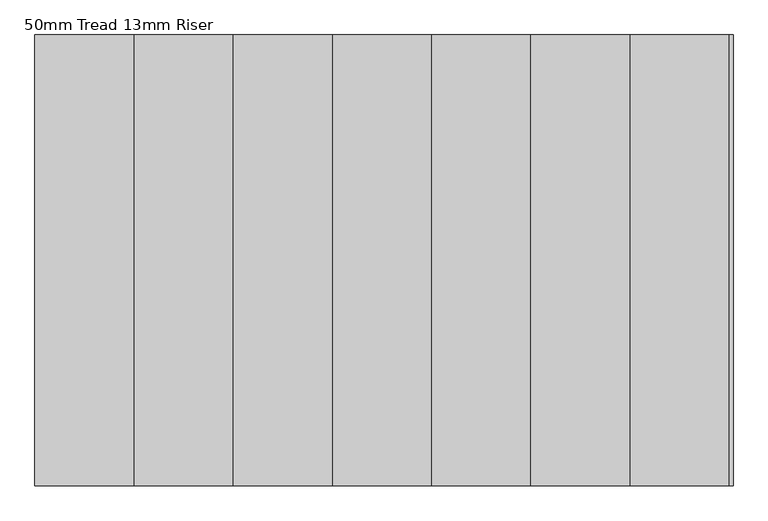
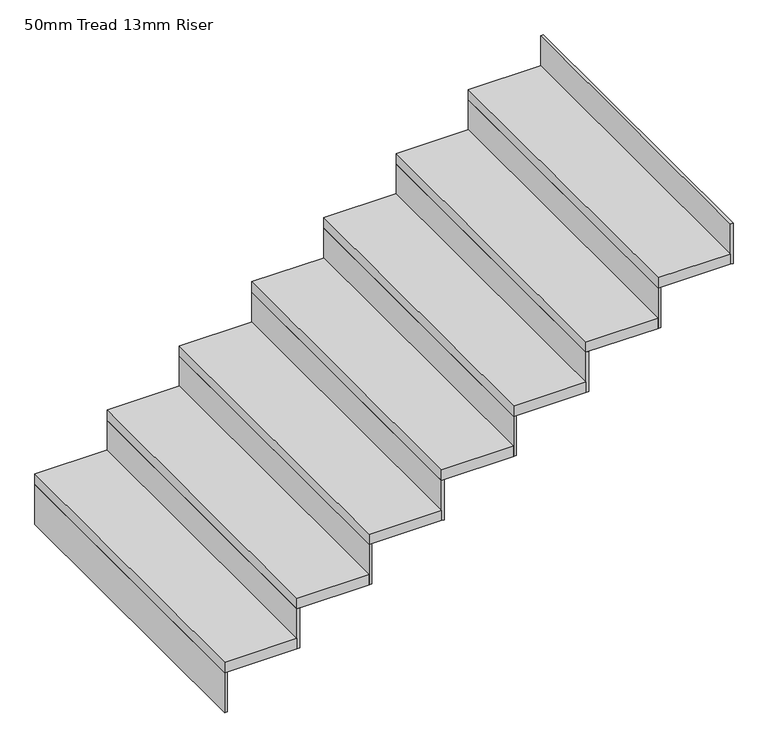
"""IFC4 building model written with IfcOpenShell, lengths in millimetres: stair flight geometry, 50mm Tread 13mm Riser."""

import ifcopenshell
import ifcopenshell.guid

model = None  # the IFC model being written
_history = None  # IfcOwnerHistory: only IFC2X3 demands one
_inside = {}  # id of a spatial element -> (the spatial element, [elements in it])
_under = {}  # id of a project, library or spatial element -> (it, [spatial elements below it])
_declared = {}  # id of a project -> (the project, [libraries it declares])
_typed = {}  # id of a type object -> (the type object, [elements of that type])
_made_of = {}  # id of a material, layer set ... -> (it, [elements and type objects made of it])


def new_model(schema):
    """Start an empty IFC model of exactly this schema.

    Asked for "IFC4X3", IfcOpenShell would pick the latest addendum, in which some entities
    have other attributes; the version numbers below select the first issue.
    IFC2X3 requires an IfcOwnerHistory on every rooted entity: one is made here for all.
    """
    global model, _history
    if schema == "IFC4X3":
        model = ifcopenshell.file(schema_version=(4, 3, 0, 0))
    else:
        model = ifcopenshell.file(schema=schema)
    _inside.clear()
    _under.clear()
    _declared.clear()
    _typed.clear()
    _made_of.clear()
    _history = None
    if model.schema == "IFC2X3":
        org = make("IfcOrganization", Name="unknown")
        user = make(
            "IfcPersonAndOrganization",
            ThePerson=make("IfcPerson", FamilyName="unknown"),
            TheOrganization=org,
        )
        app = make(
            "IfcApplication",
            ApplicationDeveloper=org,
            Version="unknown",
            ApplicationFullName="unknown",
            ApplicationIdentifier="unknown",
        )
        _history = make(
            "IfcOwnerHistory",
            OwningUser=user,
            OwningApplication=app,
            ChangeAction="ADDED",
            CreationDate=0,
        )
    return model


def make(cls, **values):
    """One entity of the class cls with the attributes given. An attribute that is None is left unset."""
    return model.create_entity(
        cls, **{name: value for name, value in values.items() if value is not None}
    )


def rooted(cls, **values):
    """An entity with a GlobalId (a new one), such as an element, a storey or a relation."""
    return make(cls, GlobalId=ifcopenshell.guid.new(), OwnerHistory=_history, **values)


def si_unit(unit_type, name, prefix=None):
    """IfcSIUnit, for example si_unit("LENGTHUNIT", "METRE", prefix="MILLI")."""
    return make("IfcSIUnit", UnitType=unit_type, Prefix=prefix, Name=name)


def assignment(units):
    """IfcUnitAssignment: the units of a project."""
    return None if units is None else make("IfcUnitAssignment", Units=units)


def point(xyz):
    """IfcCartesianPoint."""
    return None if xyz is None else make("IfcCartesianPoint", Coordinates=xyz)


def direction(xyz):
    """IfcDirection."""
    return None if xyz is None else make("IfcDirection", DirectionRatios=xyz)


def frame(location, z_axis=None, x_axis=None):
    """IfcAxis2Placement3D, a coordinate frame: its origin and axes. An axis left out is left unset."""
    return make(
        "IfcAxis2Placement3D",
        Location=point(location),
        Axis=direction(z_axis),
        RefDirection=direction(x_axis),
    )


def origin():
    """The frame at (0, 0, 0) with its axes left unset."""
    return frame((0.0, 0.0, 0.0))


def place(relative_to, where):
    """IfcLocalPlacement: puts the frame where relative to a parent placement (None: the world)."""
    return make(
        "IfcLocalPlacement", PlacementRelTo=relative_to, RelativePlacement=where
    )


def context(
    kind, dimensions, precision=None, world=None, true_north=None, identifier=None
):
    """IfcGeometricRepresentationContext, for example the 3D "Model" context."""
    return make(
        "IfcGeometricRepresentationContext",
        ContextIdentifier=identifier,
        ContextType=kind,
        CoordinateSpaceDimension=dimensions,
        Precision=precision,
        WorldCoordinateSystem=world,
        TrueNorth=true_north,
    )


def project(units=None, contexts=None):
    """IfcProject with its units and contexts."""
    return rooted(
        "IfcProject",
        Name="project",
        RepresentationContexts=contexts,
        UnitsInContext=assignment(units),
    )


def spatial(cls, under=None, at=None, **own):
    """A site, building, storey or space (cls), placed at a placement, below another one or the project."""
    s = rooted(cls, ObjectPlacement=at, **own)
    if under is not None:
        _under.setdefault(under.id(), (under, []))[1].append(s)
    return s


def polyline(points):
    """IfcPolyline through the points."""
    return make("IfcPolyline", Points=[point(p) for p in points])


def outline(outer, holes=None, kind="AREA"):
    """IfcArbitraryClosedProfileDef: a profile drawn as a closed curve; with holes, ...WithVoids."""
    if holes is None:
        return make("IfcArbitraryClosedProfileDef", ProfileType=kind, OuterCurve=outer)
    return make(
        "IfcArbitraryProfileDefWithVoids",
        ProfileType=kind,
        OuterCurve=outer,
        InnerCurves=holes,
    )


def extrude(swept, where, along, depth):
    """IfcExtrudedAreaSolid: the profile swept, set in the frame where, extruded along a direction by depth."""
    return make(
        "IfcExtrudedAreaSolid",
        SweptArea=swept,
        Position=where,
        ExtrudedDirection=direction(along),
        Depth=depth,
    )


def shape(context_of_items, identifier, shape_type, items):
    """IfcShapeRepresentation: the items that make up one representation, for example the "Body"."""
    return make(
        "IfcShapeRepresentation",
        ContextOfItems=context_of_items,
        RepresentationIdentifier=identifier,
        RepresentationType=shape_type,
        Items=items,
    )


def source(mapping_origin, context_of_items, identifier, shape_type, items):
    """IfcRepresentationMap: a shape defined once, which mapped items show again and again."""
    return make(
        "IfcRepresentationMap",
        MappingOrigin=mapping_origin,
        MappedRepresentation=shape(context_of_items, identifier, shape_type, items),
    )


def transform(
    local_origin,
    x_axis=None,
    y_axis=None,
    z_axis=None,
    scale=None,
    scale2=None,
    scale3=None,
    uniform=True,
):
    """IfcCartesianTransformationOperator3D, or its non-uniform kind. x_axis, y_axis, z_axis: its Axis1, 2, 3."""
    if uniform:
        return make(
            "IfcCartesianTransformationOperator3D",
            Axis1=direction(x_axis),
            Axis2=direction(y_axis),
            LocalOrigin=point(local_origin),
            Scale=scale,
            Axis3=direction(z_axis),
        )
    return make(
        "IfcCartesianTransformationOperator3DnonUniform",
        Axis1=direction(x_axis),
        Axis2=direction(y_axis),
        LocalOrigin=point(local_origin),
        Scale=scale,
        Axis3=direction(z_axis),
        Scale2=scale2,
        Scale3=scale3,
    )


def mapped(mapping_source, mapping_target):
    """IfcMappedItem: shows the shape of a source again, moved by a transform."""
    return make(
        "IfcMappedItem", MappingSource=mapping_source, MappingTarget=mapping_target
    )


def made_of(thing, what):
    """Note that an element or type object is made of a material, layer set ...; save() writes the relation."""
    if what is not None:
        _made_of.setdefault(what.id(), (what, []))[1].append(thing)
    return thing


def element(
    cls,
    number,
    at=None,
    inside=None,
    cuts=None,
    type_object=None,
    material=None,
    context=None,
    identifier="Body",
    shape_type=None,
    held_by="IfcProductDefinitionShape",
    body=None,
    shapes=None,
    **own,
):
    """One element of the class cls, such as IfcWall. Its Tag is "e" and its number.

    at: its placement. inside: the storey or other place that contains it. cuts: it is an
    opening in that element (IfcRelVoidsElement). A single representation is given by context,
    identifier, shape_type and body (its items); several are given by shapes. held_by: the class
    of the entity that holds the representations. save() writes the other relations.
    """
    e = rooted(cls, Tag="e%d" % number, ObjectPlacement=at, **own)
    if body is not None:
        shapes = [shape(context, identifier, shape_type, body)]
    if shapes is not None:
        e.Representation = make(held_by, Representations=shapes)
    if inside is not None:
        _inside.setdefault(inside.id(), (inside, []))[1].append(e)
    if cuts is not None:
        rooted(
            "IfcRelVoidsElement", RelatingBuildingElement=cuts, RelatedOpeningElement=e
        )
    if type_object is not None:
        _typed.setdefault(type_object.id(), (type_object, []))[1].append(e)
    return made_of(e, material)


def aggregate(whole, parts):
    """IfcRelAggregates: a whole, such as a stair, and the parts it consists of."""
    return rooted("IfcRelAggregates", RelatingObject=whole, RelatedObjects=parts)


def save(model, path):
    """Write the relations noted so far, then the file.

    IfcRelAggregates (storeys below a building ...), IfcRelContainedInSpatialStructure (elements
    in a storey), IfcRelDefinesByType, IfcRelAssociatesMaterial and IfcRelDeclares: one each for
    every whole, place, type object, material and project.
    """
    for whole, parts in _under.values():
        aggregate(whole, parts)
    for where, things in _inside.values():
        rooted(
            "IfcRelContainedInSpatialStructure",
            RelatedElements=things,
            RelatingStructure=where,
        )
    for kind, things in _typed.values():
        rooted("IfcRelDefinesByType", RelatedObjects=things, RelatingType=kind)
    for what, things in _made_of.values():
        rooted("IfcRelAssociatesMaterial", RelatedObjects=things, RelatingMaterial=what)
    for by, libraries in _declared.values():
        rooted("IfcRelDeclares", RelatingContext=by, RelatedDefinitions=libraries)
    model.write(path)


def stair_flight_50mm_tread_13mm_riser_33096dec(model_context):
    return source(origin(), model_context, "Body", "SweptSolid", [
        extrude(outline(polyline([(2075.0000043, 6311.9438364), (2075.0000043, 4811.9438414), (1745.0000043, 4811.9438414), (1745.0000043, 6311.9438364), (2075.0000043, 6311.9438364)])), frame((0.0, 0.0, 3091.1764706), z_axis=(0.0, 0.0, 1.0), x_axis=(1.0, 0.0, 0.0)), (0.0, 0.0, 1.0), 50.0),
        extrude(outline(polyline([(1757.5000043, 4811.9438414), (1745.0000043, 4811.9438414), (1745.0000043, 6311.9438364), (1757.5000043, 6311.9438364), (1757.5000043, 4811.9438414)])), frame((0.0, 0.0, 2897.0588235), z_axis=(0.0, 0.0, 1.0), x_axis=(1.0, 0.0, 0.0)), (0.0, 0.0, 1.0), 194.1176471),
        extrude(outline(polyline([(2405.0000043, 6311.9438364), (2405.0000043, 4811.9438414), (2075.0000043, 4811.9438414), (2075.0000043, 6311.9438364), (2405.0000043, 6311.9438364)])), frame((0.0, 0.0, 3285.2941176), z_axis=(0.0, 0.0, 1.0), x_axis=(1.0, 0.0, 0.0)), (0.0, 0.0, 1.0), 50.0),
        extrude(outline(polyline([(2087.5000043, 4811.9438414), (2075.0000043, 4811.9438414), (2075.0000043, 6311.9438364), (2087.5000043, 6311.9438364), (2087.5000043, 4811.9438414)])), frame((0.0, 0.0, 3091.1764706), z_axis=(0.0, 0.0, 1.0), x_axis=(1.0, 0.0, 0.0)), (0.0, 0.0, 1.0), 194.1176471),
        extrude(outline(polyline([(2735.0000043, 6311.9438364), (2735.0000043, 4811.9438414), (2405.0000043, 4811.9438414), (2405.0000043, 6311.9438364), (2735.0000043, 6311.9438364)])), frame((0.0, 0.0, 3479.4117647), z_axis=(0.0, 0.0, 1.0), x_axis=(1.0, 0.0, 0.0)), (0.0, 0.0, 1.0), 50.0),
        extrude(outline(polyline([(2417.5000043, 4811.9438414), (2405.0000043, 4811.9438414), (2405.0000043, 6311.9438364), (2417.5000043, 6311.9438364), (2417.5000043, 4811.9438414)])), frame((0.0, 0.0, 3285.2941176), z_axis=(0.0, 0.0, 1.0), x_axis=(1.0, 0.0, 0.0)), (0.0, 0.0, 1.0), 194.1176471),
        extrude(outline(polyline([(3065.0000043, 6311.9438364), (3065.0000043, 4811.9438414), (2735.0000043, 4811.9438414), (2735.0000043, 6311.9438364), (3065.0000043, 6311.9438364)])), frame((0.0, 0.0, 3673.5294118), z_axis=(0.0, 0.0, 1.0), x_axis=(1.0, 0.0, 0.0)), (0.0, 0.0, 1.0), 50.0),
        extrude(outline(polyline([(2747.5000043, 4811.9438414), (2735.0000043, 4811.9438414), (2735.0000043, 6311.9438364), (2747.5000043, 6311.9438364), (2747.5000043, 4811.9438414)])), frame((0.0, 0.0, 3479.4117647), z_axis=(0.0, 0.0, 1.0), x_axis=(1.0, 0.0, 0.0)), (0.0, 0.0, 1.0), 194.1176471),
        extrude(outline(polyline([(3395.0000043, 6311.9438364), (3395.0000043, 4811.9438414), (3065.0000043, 4811.9438414), (3065.0000043, 6311.9438364), (3395.0000043, 6311.9438364)])), frame((0.0, 0.0, 3867.6470588), z_axis=(0.0, 0.0, 1.0), x_axis=(1.0, 0.0, 0.0)), (0.0, 0.0, 1.0), 50.0),
        extrude(outline(polyline([(3077.5000043, 4811.9438414), (3065.0000043, 4811.9438414), (3065.0000043, 6311.9438364), (3077.5000043, 6311.9438364), (3077.5000043, 4811.9438414)])), frame((0.0, 0.0, 3673.5294118), z_axis=(0.0, 0.0, 1.0), x_axis=(1.0, 0.0, 0.0)), (0.0, 0.0, 1.0), 194.1176471),
        extrude(outline(polyline([(3725.0000043, 6311.9438364), (3725.0000043, 4811.9438414), (3395.0000043, 4811.9438414), (3395.0000043, 6311.9438364), (3725.0000043, 6311.9438364)])), frame((0.0, 0.0, 4061.7647059), z_axis=(0.0, 0.0, 1.0), x_axis=(1.0, 0.0, 0.0)), (0.0, 0.0, 1.0), 50.0),
        extrude(outline(polyline([(3407.5000043, 4811.9438414), (3395.0000043, 4811.9438414), (3395.0000043, 6311.9438364), (3407.5000043, 6311.9438364), (3407.5000043, 4811.9438414)])), frame((0.0, 0.0, 3867.6470588), z_axis=(0.0, 0.0, 1.0), x_axis=(1.0, 0.0, 0.0)), (0.0, 0.0, 1.0), 194.1176471),
        extrude(outline(polyline([(4055.0000043, 6311.9438364), (4055.0000043, 4811.9438414), (3725.0000043, 4811.9438414), (3725.0000043, 6311.9438364), (4055.0000043, 6311.9438364)])), frame((0.0, 0.0, 4255.8823529), z_axis=(0.0, 0.0, 1.0), x_axis=(1.0, 0.0, 0.0)), (0.0, 0.0, 1.0), 50.0),
        extrude(outline(polyline([(3737.5000043, 4811.9438414), (3725.0000043, 4811.9438414), (3725.0000043, 6311.9438364), (3737.5000043, 6311.9438364), (3737.5000043, 4811.9438414)])), frame((0.0, 0.0, 4061.7647059), z_axis=(0.0, 0.0, 1.0), x_axis=(1.0, 0.0, 0.0)), (0.0, 0.0, 1.0), 194.1176471),
        extrude(outline(polyline([(4067.5000043, 4811.9438414), (4055.0000043, 4811.9438414), (4055.0000043, 6311.9438364), (4067.5000043, 6311.9438364), (4067.5000043, 4811.9438414)])), frame((0.0, 0.0, 4255.8823529), z_axis=(0.0, 0.0, 1.0), x_axis=(1.0, 0.0, 0.0)), (0.0, 0.0, 1.0), 194.1176471),
    ])


if __name__ == "__main__":
    model = new_model("IFC4")
    model_context = context("Model", 3, world=origin())
    ifc_project = project(units=[si_unit("LENGTHUNIT", "METRE", prefix="MILLI")], contexts=[model_context])
    site = spatial("IfcSite", under=ifc_project)
    building = spatial("IfcBuilding", under=site)
    placement = place(None, origin())
    stair_flight_50mm_tread_13mm_riser_shape = stair_flight_50mm_tread_13mm_riser_33096dec(model_context)
    element("IfcStairFlight", 1, ObjectType="50mm Tread 13mm Riser", at=placement, inside=building, context=model_context, shape_type="MappedRepresentation", body=[
        mapped(stair_flight_50mm_tread_13mm_riser_shape, transform((0.0, 0.0, 0.0), x_axis=(1.0, 0.0, 0.0), y_axis=(0.0, 1.0, 0.0), z_axis=(0.0, 0.0, 1.0))),
    ])
    save(model, "model.ifc")
